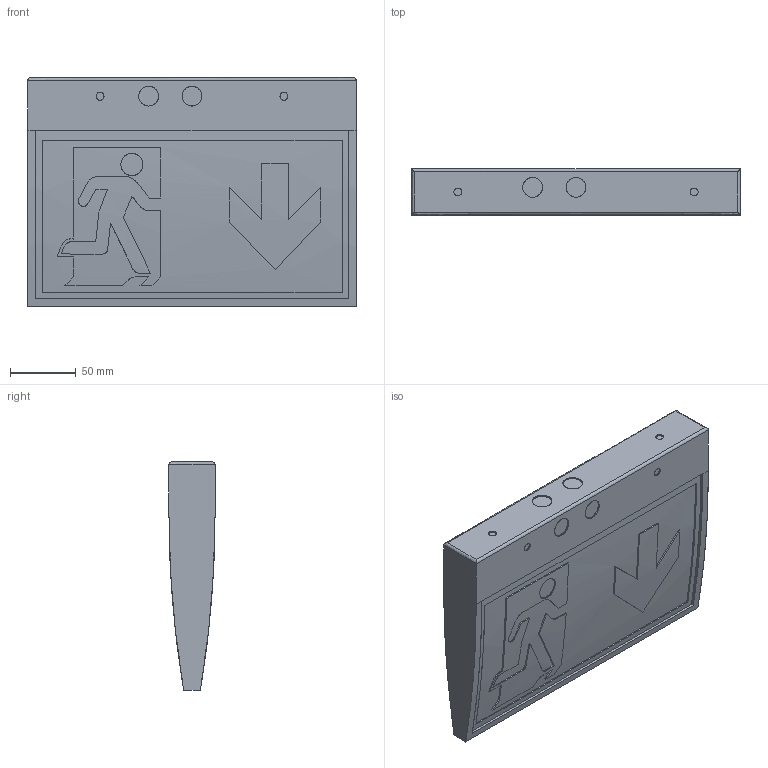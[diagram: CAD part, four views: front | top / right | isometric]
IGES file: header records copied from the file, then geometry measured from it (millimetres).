
Start section: SolidWorks IGES file using analytic representation for surfaces
Global section: file name: S:\KONSTRUKTIONEN\01_NOT-BELEUCHTUNG\KUNSTSTOFFLEUCHTEN\KM 2\10_Entwurf_01\04_Iges\150210\Dummy_KMU.IGS; native system: SolidWorks 2015; preprocessor: SolidWorks 2015; author: markus.weber; date: 150210.105313; units: millimetre
Bounding box: 250 x 35.12 x 173.8 mm (x, y, z)
Surface area: 115871 mm2 (no closed solid volume)
Topology: 0 solids, 0 shells, 179 faces, 1938 edges, 1938 vertices
Faces by surface type: bspline 141, revolution 38
